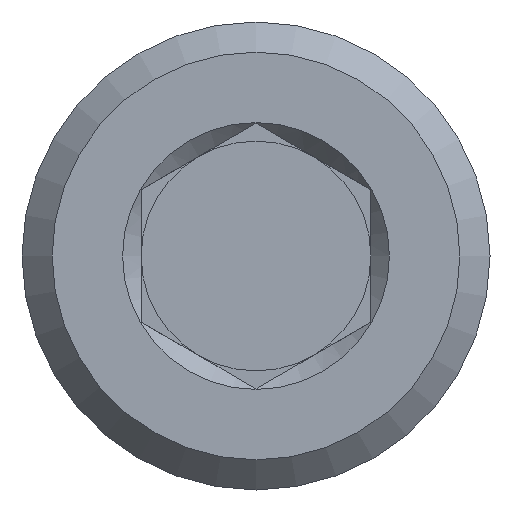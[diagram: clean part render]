
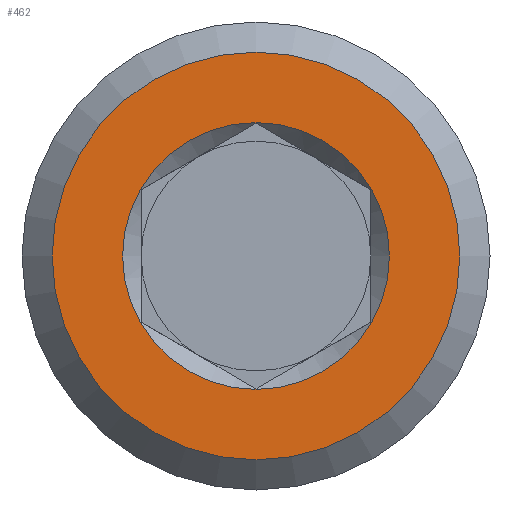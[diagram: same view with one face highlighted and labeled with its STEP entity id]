
A CAD part, front view. The second image highlights one B-rep face of the part: STEP entity #462.
In plain terms, the highlighted planar face has unit normal (0, -1, 0).
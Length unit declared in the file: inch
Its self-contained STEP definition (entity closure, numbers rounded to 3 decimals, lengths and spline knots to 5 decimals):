
#17=FACE_BOUND('',#140,.T.);
#111=FACE_OUTER_BOUND('',#139,.T.);
#139=EDGE_LOOP('',(#392));
#140=EDGE_LOOP('',(#393));
#168=CIRCLE('',#526,0.108);
#169=CIRCLE('',#528,0.165);
#214=VERTEX_POINT('',#819);
#215=VERTEX_POINT('',#823);
#277=EDGE_CURVE('',#214,#214,#168,.T.);
#278=EDGE_CURVE('',#215,#215,#169,.T.);
#392=ORIENTED_EDGE('',*,*,#278,.F.);
#393=ORIENTED_EDGE('',*,*,#277,.F.);
#439=PLANE('',#527);
#462=ADVANCED_FACE('',(#111,#17),#439,.T.);
#526=AXIS2_PLACEMENT_3D('',#821,#649,#650);
#527=AXIS2_PLACEMENT_3D('',#822,#651,#652);
#528=AXIS2_PLACEMENT_3D('',#824,#653,#654);
#649=DIRECTION('center_axis',(0.,-1.,0.));
#650=DIRECTION('ref_axis',(0.,0.,1.));
#651=DIRECTION('center_axis',(0.,-1.,0.));
#652=DIRECTION('ref_axis',(0.,0.,-1.));
#653=DIRECTION('center_axis',(0.,1.,0.));
#654=DIRECTION('ref_axis',(0.,0.,1.));
#819=CARTESIAN_POINT('',(0.,0.,-0.108));
#821=CARTESIAN_POINT('Origin',(0.,0.,0.));
#822=CARTESIAN_POINT('Origin',(0.,0.,-0.093));
#823=CARTESIAN_POINT('',(0.,0.,-0.165));
#824=CARTESIAN_POINT('Origin',(0.,0.,0.));
